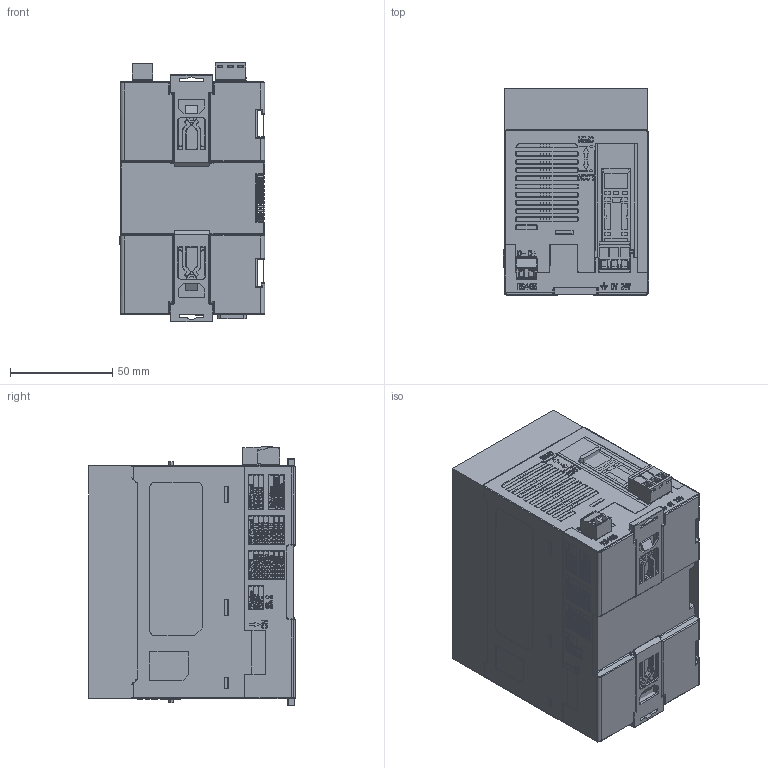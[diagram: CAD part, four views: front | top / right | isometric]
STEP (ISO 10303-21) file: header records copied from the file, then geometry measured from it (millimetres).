
FILE_DESCRIPTION((''),'2;1');
FILE_NAME('DTME04_ASM','2021-03-02T14:17:26',('BRAD.PENG'),(''),'CREO PARAMETRIC BY PTC INC, 2019080','CREO PARAMETRIC BY PTC INC, 2019080','');
FILE_SCHEMA(('CONFIG_CONTROL_DESIGN','GEOMETRIC_VALIDATION_PROPERTIES_MIM'));
Products named in the file (4): DTM_MAIN_COVER_ORIGIN_230; DINKLE_EC508V-02P_5; DTM_MAIN_ASSY_ASM_338_ASM; DTME04_ASM
Assembly tree (3 placements, depth 3):
  DTME04_ASM
    DTM_MAIN_ASSY_ASM_338_ASM
      DTM_MAIN_COVER_ORIGIN_230
      DINKLE_EC508V-02P_5
Bounding box: 71 x 101.2 x 126.95 mm (x, y, z)
Volume: 561755.4 mm3; surface area: 166031.3 mm2
Topology: 2 solids, 377 shells, 6416 faces, 23863 edges, 17844 vertices
Faces by surface type: plane 4890, cylinder 1043, cone 167, bspline 159, torus 101, sphere 40, extrusion 16
Entity records: 388818 total; most frequent: CARTESIAN_POINT 75711, ORIENTED_EDGE 40797, DIRECTION 34386, PRESENTATION_STYLE_ASSIGNMENT 30625, STYLED_ITEM 30625, CURVE_STYLE 23838, EDGE_CURVE 23822, VERTEX_POINT 17844
